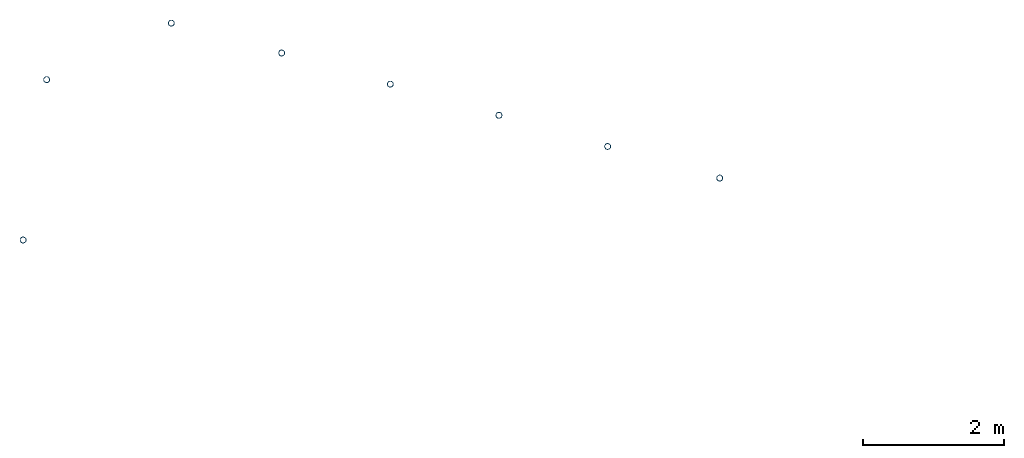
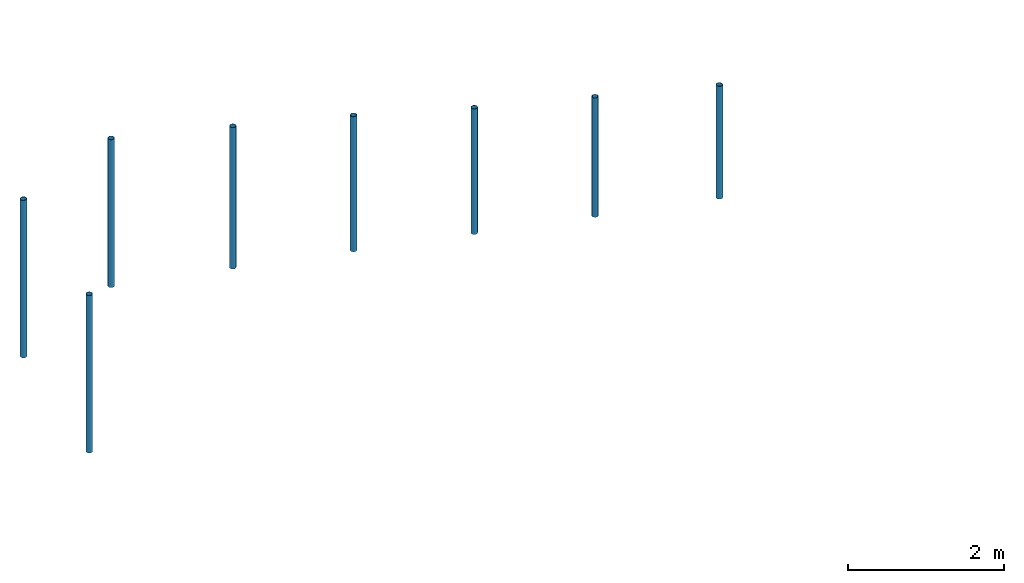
# One storey, part 3 of 5: 8 columns.
"""IFC2X3 building model written with IfcOpenShell, lengths in millimetres."""

from ifc_helpers import new_model, entity, si_unit, converted_unit, derived_unit, direction, frame, frame_2d, origin, place, context, subcontext, project, spatial, hollow_circle, extrude, source, transform, mapped, material, material_list, type_object, type_shapes, element, save


model = new_model("IFC2X3")

# Units and contexts
model_context = context("Model", 3, precision=0.01, world=origin(), true_north=direction((6.12303176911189e-17, 1.0)))
context_of_model = context(None, 3, precision=0.01, world=origin(), true_north=direction((6.12303176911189e-17, 1.0)))
body_context = subcontext(model_context, "Body", "Model", "MODEL_VIEW")
ifc_project = project(units=[si_unit("LENGTHUNIT", "METRE", prefix="MILLI"), si_unit("AREAUNIT", "SQUARE_METRE"), si_unit("VOLUMEUNIT", "CUBIC_METRE"), converted_unit("PLANEANGLEUNIT", "DEGREE", entity("IfcRatioMeasure", 0.0174532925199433), si_unit("PLANEANGLEUNIT", "RADIAN"), dimensions=[0, 0, 0, 0, 0, 0, 0]), si_unit("MASSUNIT", "GRAM", prefix="KILO"), derived_unit("MASSDENSITYUNIT", [(si_unit("MASSUNIT", "GRAM", prefix="KILO"), 1), (si_unit("LENGTHUNIT", "METRE"), -3)]), derived_unit("MOMENTOFINERTIAUNIT", [(si_unit("LENGTHUNIT", "METRE"), 4)]), si_unit("TIMEUNIT", "SECOND"), si_unit("FREQUENCYUNIT", "HERTZ"), si_unit("THERMODYNAMICTEMPERATUREUNIT", "DEGREE_CELSIUS"), derived_unit("THERMALTRANSMITTANCEUNIT", [(si_unit("MASSUNIT", "GRAM", prefix="KILO"), 1), (si_unit("THERMODYNAMICTEMPERATUREUNIT", "KELVIN"), -1), (si_unit("TIMEUNIT", "SECOND"), -3)]), derived_unit("VOLUMETRICFLOWRATEUNIT", [(si_unit("LENGTHUNIT", "METRE"), 3), (si_unit("TIMEUNIT", "SECOND"), -1)]), si_unit("ELECTRICCURRENTUNIT", "AMPERE"), si_unit("ELECTRICVOLTAGEUNIT", "VOLT"), si_unit("POWERUNIT", "WATT"), si_unit("FORCEUNIT", "NEWTON", prefix="KILO"), si_unit("ILLUMINANCEUNIT", "LUX"), si_unit("LUMINOUSFLUXUNIT", "LUMEN"), si_unit("LUMINOUSINTENSITYUNIT", "CANDELA"), derived_unit("USERDEFINED", [(si_unit("MASSUNIT", "GRAM", prefix="KILO"), -1), (si_unit("LENGTHUNIT", "METRE"), -2), (si_unit("TIMEUNIT", "SECOND"), 3), (si_unit("LUMINOUSFLUXUNIT", "LUMEN"), 1)]), derived_unit("LINEARVELOCITYUNIT", [(si_unit("LENGTHUNIT", "METRE"), 1), (si_unit("TIMEUNIT", "SECOND"), -1)]), si_unit("PRESSUREUNIT", "PASCAL"), derived_unit("USERDEFINED", [(si_unit("LENGTHUNIT", "METRE"), -2), (si_unit("MASSUNIT", "GRAM", prefix="KILO"), 1), (si_unit("TIMEUNIT", "SECOND"), -2)]), derived_unit("LINEARFORCEUNIT", [(si_unit("MASSUNIT", "GRAM", prefix="KILO"), 1), (si_unit("LENGTHUNIT", "METRE"), 1), (si_unit("TIMEUNIT", "SECOND"), -2), (si_unit("LENGTHUNIT", "METRE"), -1)]), derived_unit("PLANARFORCEUNIT", [(si_unit("MASSUNIT", "GRAM", prefix="KILO"), 1), (si_unit("LENGTHUNIT", "METRE"), 1), (si_unit("TIMEUNIT", "SECOND"), -2), (si_unit("LENGTHUNIT", "METRE"), -2)])], contexts=[model_context, context_of_model])

# Site, building, storey
site_placement = place(None, origin())
site = spatial("IfcSite", under=ifc_project, at=site_placement, Name="Default", CompositionType="ELEMENT")
building_placement = place(site_placement, origin())
building = spatial("IfcBuilding", under=site, at=building_placement, Name="IFc", CompositionType="ELEMENT")
storey_placement = place(building_placement, frame((0.0, 0.0, 3000.0)))
storey = spatial("IfcBuildingStorey", under=building, at=storey_placement, Name="01 1e verd. b.k. ruwe vloer", CompositionType="ELEMENT", Elevation=3000.00000000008)

# Columns
ifc_material_1 = material(Name="IMd_staal")
ifc_material_2 = material(Name="<Unnamed>")
ifc_material_list_1 = material_list([ifc_material_2, ifc_material_1])
column_type_1 = type_object("IfcColumnType", Name="NLRS_28_SC_TLB_kolom buis_generiek_ISR:ø88.9x5", PredefinedType="COLUMN", material=ifc_material_list_1)
shared_shape_1 = source(origin(), body_context, "Body", "SweptSolid", [
    extrude(hollow_circle(Radius=44.45, WallThickness=4.99999999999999, at=frame_2d((-1.68427735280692e-15, -5.64975186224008e-14), x_axis=(1.0, 0.0))), frame((0.0, 0.0, 5130.0), z_axis=(0.0, 0.0, 1.0), x_axis=(-1.0, 0.0, 0.0)), (0.0, 0.0, 1.0), 2470.0),
])
type_shapes(column_type_1, [shared_shape_1])
for number, where in (
    (1, (9975.34094413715, 24656.3697450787, -3000.0)),
    (2, (10308.3778520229, 26925.3119040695, -3000.0)),
):
    element("IfcColumn", number, at=place(storey_placement, frame(where)), inside=storey, type_object=column_type_1, material=ifc_material_1, Name="NLRS_28_SC_TLB_kolom buis_generiek_ISR:ø88.9x5", ObjectType="NLRS_28_SC_TLB_kolom buis_generiek_ISR:ø88.9x5", context=body_context, shape_type="MappedRepresentation", body=[
        mapped(shared_shape_1, transform((0.0, 0.0, 0.0), scale=1.0)),
    ])
ifc_material_list_2 = material_list([ifc_material_2, ifc_material_1])
column_type_2 = type_object("IfcColumnType", Name="NLRS_28_SC_TLB_kolom buis_generiek_ISR:ø88.9x5", PredefinedType="COLUMN", material=ifc_material_list_2)
shared_shape_2 = source(origin(), body_context, "Body", "SweptSolid", [
    extrude(hollow_circle(Radius=44.45, WallThickness=4.99999999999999, at=frame_2d((-1.68427735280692e-15, -5.64975186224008e-14), x_axis=(1.0, 0.0))), frame((0.0, 0.0, 5130.0), z_axis=(0.0, 0.0, 1.0), x_axis=(-1.0, 0.0, 0.0)), (0.0, 0.0, 1.0), 2320.0),
])
type_shapes(column_type_2, [shared_shape_2])
column_1_placement = place(storey_placement, frame((12072.4369088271, 27726.0375567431, -3000.0)))
element("IfcColumn", 3, at=column_1_placement, inside=storey, type_object=column_type_2, material=ifc_material_1, Name="NLRS_28_SC_TLB_kolom buis_generiek_ISR:ø88.9x5", ObjectType="NLRS_28_SC_TLB_kolom buis_generiek_ISR:ø88.9x5", context=body_context, shape_type="MappedRepresentation", body=[
    mapped(shared_shape_2, transform((0.0, 0.0, 0.0), scale=1.0)),
])
ifc_material_list_3 = material_list([ifc_material_2, ifc_material_1])
column_type_3 = type_object("IfcColumnType", Name="NLRS_28_SC_TLB_kolom buis_generiek_ISR:ø88.9x5", PredefinedType="COLUMN", material=ifc_material_list_3)
shared_shape_3 = source(origin(), body_context, "Body", "SweptSolid", [
    extrude(hollow_circle(Radius=44.45, WallThickness=4.99999999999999, at=frame_2d((-1.68427735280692e-15, -5.64975186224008e-14), x_axis=(1.0, 0.0))), frame((0.0, 0.0, 5130.0), z_axis=(0.0, 0.0, 1.0), x_axis=(-1.0, 0.0, 0.0)), (0.0, 0.0, 1.0), 2220.0),
])
type_shapes(column_type_3, [shared_shape_3])
column_2_placement = place(storey_placement, frame((13634.4871647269, 27303.1268535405, -3000.0)))
element("IfcColumn", 4, at=column_2_placement, inside=storey, type_object=column_type_3, material=ifc_material_1, Name="NLRS_28_SC_TLB_kolom buis_generiek_ISR:ø88.9x5", ObjectType="NLRS_28_SC_TLB_kolom buis_generiek_ISR:ø88.9x5", context=body_context, shape_type="MappedRepresentation", body=[
    mapped(shared_shape_3, transform((0.0, 0.0, 0.0), scale=1.0)),
])
ifc_material_list_4 = material_list([ifc_material_2, ifc_material_1])
column_type_4 = type_object("IfcColumnType", Name="NLRS_28_SC_TLB_kolom buis_generiek_ISR:ø88.9x5", PredefinedType="COLUMN", material=ifc_material_list_4)
shared_shape_4 = source(origin(), body_context, "Body", "SweptSolid", [
    extrude(hollow_circle(Radius=44.45, WallThickness=4.99999999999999, at=frame_2d((-1.68427735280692e-15, -5.64975186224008e-14), x_axis=(1.0, 0.0))), frame((0.0, 0.0, 5130.0), z_axis=(0.0, 0.0, 1.0), x_axis=(-1.0, 0.0, 0.0)), (0.0, 0.0, 1.0), 2120.0),
])
type_shapes(column_type_4, [shared_shape_4])
column_3_placement = place(storey_placement, frame((15172.5058782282, 26862.1070842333, -3000.0)))
element("IfcColumn", 5, at=column_3_placement, inside=storey, type_object=column_type_4, material=ifc_material_1, Name="NLRS_28_SC_TLB_kolom buis_generiek_ISR:ø88.9x5", ObjectType="NLRS_28_SC_TLB_kolom buis_generiek_ISR:ø88.9x5", context=body_context, shape_type="MappedRepresentation", body=[
    mapped(shared_shape_4, transform((0.0, 0.0, 0.0), scale=1.0)),
])
ifc_material_list_5 = material_list([ifc_material_2, ifc_material_1])
column_type_5 = type_object("IfcColumnType", Name="NLRS_28_SC_TLB_kolom buis_generiek_ISR:ø88.9x5", PredefinedType="COLUMN", material=ifc_material_list_5)
shared_shape_5 = source(origin(), body_context, "Body", "SweptSolid", [
    extrude(hollow_circle(Radius=44.45, WallThickness=4.99999999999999, at=frame_2d((-1.68427735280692e-15, -5.64975186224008e-14), x_axis=(1.0, 0.0))), frame((0.0, 0.0, 5130.0), z_axis=(0.0, 0.0, 1.0), x_axis=(-1.0, 0.0, 0.0)), (0.0, 0.0, 1.0), 1970.0),
])
type_shapes(column_type_5, [shared_shape_5])
column_4_placement = place(storey_placement, frame((16710.5245917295, 26421.0873149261, -3000.0)))
element("IfcColumn", 6, at=column_4_placement, inside=storey, type_object=column_type_5, material=ifc_material_1, Name="NLRS_28_SC_TLB_kolom buis_generiek_ISR:ø88.9x5", ObjectType="NLRS_28_SC_TLB_kolom buis_generiek_ISR:ø88.9x5", context=body_context, shape_type="MappedRepresentation", body=[
    mapped(shared_shape_5, transform((0.0, 0.0, 0.0), scale=1.0)),
])
ifc_material_list_6 = material_list([ifc_material_2, ifc_material_1])
column_type_6 = type_object("IfcColumnType", Name="NLRS_28_SC_TLB_kolom buis_generiek_ISR:ø88.9x5", PredefinedType="COLUMN", material=ifc_material_list_6)
shared_shape_6 = source(origin(), body_context, "Body", "SweptSolid", [
    extrude(hollow_circle(Radius=44.45, WallThickness=4.99999999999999, at=frame_2d((-1.68427735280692e-15, -5.64975186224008e-14), x_axis=(1.0, 0.0))), frame((0.0, 0.0, 5130.0), z_axis=(0.0, 0.0, 1.0), x_axis=(-1.0, 0.0, 0.0)), (0.0, 0.0, 1.0), 1870.0),
])
type_shapes(column_type_6, [shared_shape_6])
column_5_placement = place(storey_placement, frame((18248.5433052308, 25980.0675456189, -3000.0)))
element("IfcColumn", 7, at=column_5_placement, inside=storey, type_object=column_type_6, material=ifc_material_1, Name="NLRS_28_SC_TLB_kolom buis_generiek_ISR:ø88.9x5", ObjectType="NLRS_28_SC_TLB_kolom buis_generiek_ISR:ø88.9x5", context=body_context, shape_type="MappedRepresentation", body=[
    mapped(shared_shape_6, transform((0.0, 0.0, 0.0), scale=1.0)),
])
ifc_material_list_7 = material_list([ifc_material_2, ifc_material_1])
column_type_7 = type_object("IfcColumnType", Name="NLRS_28_SC_TLB_kolom buis_generiek_ISR:ø88.9x5", PredefinedType="COLUMN", material=ifc_material_list_7)
shared_shape_7 = source(origin(), body_context, "Body", "SweptSolid", [
    extrude(hollow_circle(Radius=44.45, WallThickness=4.99999999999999, at=frame_2d((-1.68427735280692e-15, -5.64975186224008e-14), x_axis=(1.0, 0.0))), frame((0.0, 0.0, 5130.0), z_axis=(0.0, 0.0, 1.0), x_axis=(-1.0, 0.0, 0.0)), (0.0, 0.0, 1.0), 1770.0),
])
type_shapes(column_type_7, [shared_shape_7])
column_6_placement = place(storey_placement, frame((19835.5927172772, 25532.1539002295, -3000.0)))
element("IfcColumn", 8, at=column_6_placement, inside=storey, type_object=column_type_7, material=ifc_material_1, Name="NLRS_28_SC_TLB_kolom buis_generiek_ISR:ø88.9x5", ObjectType="NLRS_28_SC_TLB_kolom buis_generiek_ISR:ø88.9x5", context=body_context, shape_type="MappedRepresentation", body=[
    mapped(shared_shape_7, transform((0.0, 0.0, 0.0), scale=1.0)),
])

save(model, "model.ifc")
